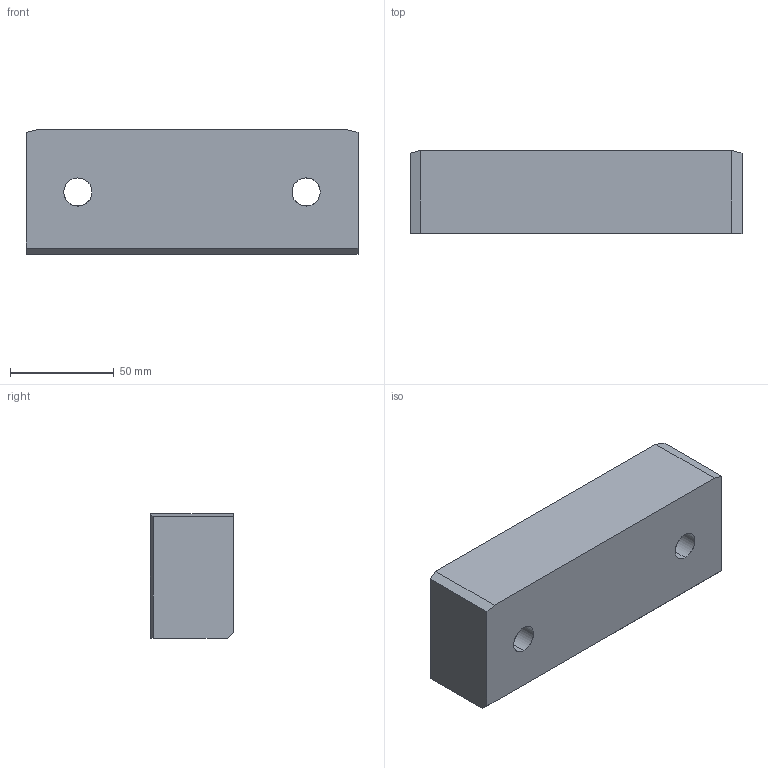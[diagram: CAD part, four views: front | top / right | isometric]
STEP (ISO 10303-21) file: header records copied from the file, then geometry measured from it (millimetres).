
FILE_DESCRIPTION(('CATIA V5 STEP Exchange'),'2;1');
FILE_NAME('C:\Users\Utente\Desktop\3D files A609\A609-040-160.stp','2020-04-13T19:47:06+00:00',('none'),('none'),'CATIA Version 5 Release 20 GA (IN-10)','CATIA V5 STEP AP203','none');
FILE_SCHEMA(('CONFIG_CONTROL_DESIGN'));
Length unit declared in the file: millimetre
Products named in the file (1): Noname
Bounding box: 160 x 40 x 60 mm (x, y, z)
Surface area: 39604.8 mm2 (no closed solid volume)
Topology: 0 solids, 17 shells, 21 faces, 90 edges, 82 vertices
Faces by surface type: extrusion 13, cylinder 8
Entity records: 1169 total; most frequent: CARTESIAN_POINT 441, ORIENTED_EDGE 98, DIRECTION 93, EDGE_CURVE 90, VERTEX_POINT 82, VECTOR 61, LINE 48, B_SPLINE_CURVE_WITH_KNOTS 39
